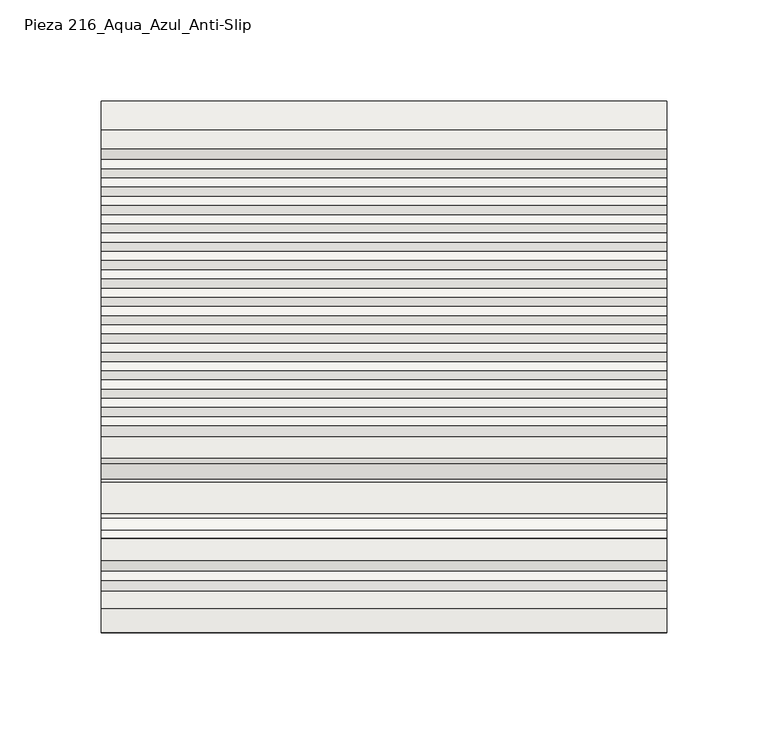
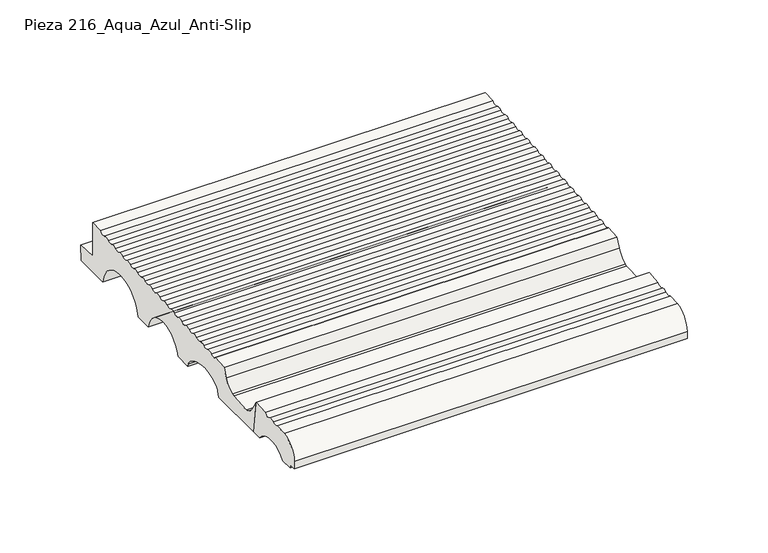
"""IFC4 building model written with IfcOpenShell, lengths in millimetres: slab geometry, ROSA GRES_216 : Pieza 216_Aqua_Azul_Anti-Slip."""

from ifc_helpers import new_model, si_unit, point, frame, frame_2d, origin, place, context, project, spatial, polyline, circle_curve, trimmed, segment, composite_curve, outline, extrude, source, transform, mapped, element, save


def pieza_216_aqua_azul_anti_slip_05ee5f36(model_context):
    return source(origin(), model_context, "Body", "SweptSolid", [
        extrude(outline(composite_curve([segment(polyline([(50.2779274, 190.3313491), (42.6585641, 190.3344144)]), True, "CONTINUOUS"), segment(trimmed(circle_curve(frame_2d((28.4466156, 179.1524611)), 18.0835716), [point((42.6585641, 190.3344144))], [point((14.2436688, 190.3458459))], True, "CARTESIAN"), True, "CONTINUOUS"), segment(polyline([(14.2436688, 190.3458459), (5.4229579, 190.3493946), (5.1617818, 192.8343188), (0.2589396, 192.8448483), (0.270618, 198.2826277)]), True, "CONTINUOUS"), segment(trimmed(circle_curve(frame_2d((13.9356113, 198.4086002)), 13.6655739), [point((0.270618, 198.2826277))], [point((12.4148911, 211.9892969))], False, "CARTESIAN"), True, "CONTINUOUS"), segment(polyline([(12.4148911, 211.9892969), (20.9679225, 212.5430894)]), True, "CONTINUOUS"), segment(trimmed(circle_curve(frame_2d((23.8495454, 215.5123064)), 4.1376321), [point((20.9679225, 212.5430894))], [point((26.349741, 212.2154865))], True, "CARTESIAN"), True, "CONTINUOUS"), segment(trimmed(circle_curve(frame_2d((28.8499366, 208.9186667)), 4.1376321), [point((26.349741, 212.2154865))], [point((30.8950387, 212.5155483))], False, "CARTESIAN"), True, "CONTINUOUS"), segment(trimmed(circle_curve(frame_2d((32.9401407, 216.1124298)), 4.1376321), [point((30.8950387, 212.5155483))], [point((36.1886491, 213.5497765))], True, "CARTESIAN"), True, "CONTINUOUS"), segment(polyline([(36.1886491, 213.5497765), (47.02226, 214.2649666), (50.2779274, 190.3313491)]), True, "CONTINUOUS")], self_intersect=False)), frame((0.0, 0.0, 0.0), z_axis=(1.0, 0.0, 0.0), x_axis=(0.0, 1.0, 0.0)), (0.0, 0.0, 1.0), 280.0),
        extrude(outline(composite_curve([segment(polyline([(263.2751802, 190.245659), (236.9233748, 190.2562605)]), True, "CONTINUOUS"), segment(trimmed(circle_curve(frame_2d((215.0085062, 186.5344061)), 22.2286676), [point((236.9233748, 190.2562605))], [point((193.0966393, 190.2738923))], True, "CARTESIAN"), True, "CONTINUOUS"), segment(polyline([(193.0966393, 190.2738923), (180.7270569, 190.2788686)]), True, "CONTINUOUS"), segment(trimmed(circle_curve(frame_2d((162.221775, 186.3703221)), 18.9135452), [point((180.7270569, 190.2788686))], [point((143.719644, 190.2937569))], True, "CARTESIAN"), True, "CONTINUOUS"), segment(polyline([(143.719644, 190.2937569), (131.5147991, 190.298667), (130.9555618, 192.6836396)]), True, "CONTINUOUS"), segment(trimmed(circle_curve(frame_2d((125.6336801, 191.4357448)), 5.4662296), [point((130.9555618, 192.6836396))], [point((129.2498705, 195.5348707))], True, "CARTESIAN"), True, "CONTINUOUS"), segment(trimmed(circle_curve(frame_2d((112.2317578, 176.2440208)), 25.7245612), [point((129.2498705, 195.5348707))], [point((96.2307788, 196.386556))], True, "CARTESIAN"), True, "CONTINUOUS"), segment(trimmed(circle_curve(frame_2d((99.6308378, 192.1064549)), 5.4662296), [point((96.2307788, 196.386556))], [point((94.4638044, 193.8901119))], True, "CARTESIAN"), True, "CONTINUOUS"), segment(polyline([(94.4638044, 193.8901119), (93.2293566, 190.3140695), (50.2802779, 190.3140695), (47.02226, 214.2649666), (51.3482048, 207.3914339)]), True, "CONTINUOUS"), segment(trimmed(circle_curve(frame_2d((63.7751184, 214.6556047)), 14.394317), [point((51.3482048, 207.3914339))], [point((57.0972438, 201.904042))], True, "CARTESIAN"), True, "CONTINUOUS"), segment(trimmed(circle_curve(frame_2d((59.2105081, 205.9393712)), 4.5551913), [point((57.0972438, 201.904042))], [point((59.5105698, 201.3940735))], True, "CARTESIAN"), True, "CONTINUOUS"), segment(polyline([(59.5105698, 201.3940735), (75.0526722, 202.4200987)]), True, "CONTINUOUS"), segment(trimmed(circle_curve(frame_2d((74.7526105, 206.9653964)), 4.5551913), [point((75.0526722, 202.4200987))], [point((76.5779698, 202.7919289))], True, "CARTESIAN"), True, "CONTINUOUS"), segment(trimmed(circle_curve(frame_2d((70.8098694, 215.980006)), 14.394317), [point((76.5779698, 202.7919289))], [point((84.083877, 210.4125036))], True, "CARTESIAN"), True, "CONTINUOUS"), segment(polyline([(84.083877, 210.4125036), (86.7854822, 216.8536554), (97.5473566, 217.5715259)]), True, "CONTINUOUS"), segment(trimmed(circle_curve(frame_2d((100.4299632, 220.5397878)), 4.1376321), [point((97.5473566, 217.5715259))], [point((102.9301588, 217.2429679))], True, "CARTESIAN"), True, "CONTINUOUS"), segment(trimmed(circle_curve(frame_2d((105.4303545, 213.9461481)), 4.1376321), [point((102.9301588, 217.2429679))], [point((107.4754565, 217.5430296))], False, "CARTESIAN"), True, "CONTINUOUS"), segment(trimmed(circle_curve(frame_2d((109.5205585, 221.1399112)), 4.1376321), [point((107.4754565, 217.5430296))], [point((112.0207542, 217.8430914))], True, "CARTESIAN"), True, "CONTINUOUS"), segment(trimmed(circle_curve(frame_2d((114.5209498, 214.5462715)), 4.1376321), [point((112.0207542, 217.8430914))], [point((116.5660518, 218.1431531))], False, "CARTESIAN"), True, "CONTINUOUS"), segment(trimmed(circle_curve(frame_2d((118.6111539, 221.7400347)), 4.1376321), [point((116.5660518, 218.1431531))], [point((121.1113495, 218.4432148))], True, "CARTESIAN"), True, "CONTINUOUS"), segment(trimmed(circle_curve(frame_2d((123.6115451, 215.1463949)), 4.1376321), [point((121.1113495, 218.4432148))], [point((125.6566472, 218.7432765))], False, "CARTESIAN"), True, "CONTINUOUS"), segment(trimmed(circle_curve(frame_2d((127.7017492, 222.3401581)), 4.1376321), [point((125.6566472, 218.7432765))], [point((130.2019448, 219.0433382))], True, "CARTESIAN"), True, "CONTINUOUS"), segment(trimmed(circle_curve(frame_2d((132.7021405, 215.7465184)), 4.1376321), [point((130.2019448, 219.0433382))], [point((134.7472425, 219.3433999))], False, "CARTESIAN"), True, "CONTINUOUS"), segment(trimmed(circle_curve(frame_2d((136.7923445, 222.9402815)), 4.1376321), [point((134.7472425, 219.3433999))], [point((139.2925402, 219.6434617))], True, "CARTESIAN"), True, "CONTINUOUS"), segment(trimmed(circle_curve(frame_2d((141.7927358, 216.3466418)), 4.1376321), [point((139.2925402, 219.6434617))], [point((143.8378378, 219.9435234))], False, "CARTESIAN"), True, "CONTINUOUS"), segment(trimmed(circle_curve(frame_2d((145.8829399, 223.540405)), 4.1376321), [point((143.8378378, 219.9435234))], [point((148.3831355, 220.2435851))], True, "CARTESIAN"), True, "CONTINUOUS"), segment(trimmed(circle_curve(frame_2d((150.8833311, 216.9467652)), 4.1376321), [point((148.3831355, 220.2435851))], [point((152.9284332, 220.5436468))], False, "CARTESIAN"), True, "CONTINUOUS"), segment(trimmed(circle_curve(frame_2d((154.9735352, 224.1405284)), 4.1376321), [point((152.9284332, 220.5436468))], [point((157.4737308, 220.8437085))], True, "CARTESIAN"), True, "CONTINUOUS"), segment(trimmed(circle_curve(frame_2d((159.9739265, 217.5468887)), 4.1376321), [point((157.4737308, 220.8437085))], [point((162.0190285, 221.1437703))], False, "CARTESIAN"), True, "CONTINUOUS"), segment(trimmed(circle_curve(frame_2d((164.0641305, 224.7406518)), 4.1376321), [point((162.0190285, 221.1437703))], [point((166.5643262, 221.443832))], True, "CARTESIAN"), True, "CONTINUOUS"), segment(trimmed(circle_curve(frame_2d((169.0645218, 218.1470121)), 4.1376321), [point((166.5643262, 221.443832))], [point((171.1096238, 221.7438937))], False, "CARTESIAN"), True, "CONTINUOUS"), segment(trimmed(circle_curve(frame_2d((173.1547259, 225.3407753)), 4.1376321), [point((171.1096238, 221.7438937))], [point((175.6549215, 222.0439554))], True, "CARTESIAN"), True, "CONTINUOUS"), segment(trimmed(circle_curve(frame_2d((178.1551171, 218.7471355)), 4.1376321), [point((175.6549215, 222.0439554))], [point((180.2002192, 222.3440171))], False, "CARTESIAN"), True, "CONTINUOUS"), segment(trimmed(circle_curve(frame_2d((182.2453212, 225.9408987)), 4.1376321), [point((180.2002192, 222.3440171))], [point((184.7455168, 222.6440788))], True, "CARTESIAN"), True, "CONTINUOUS"), segment(trimmed(circle_curve(frame_2d((187.2457125, 219.347259)), 4.1376321), [point((184.7455168, 222.6440788))], [point((189.2908145, 222.9441406))], False, "CARTESIAN"), True, "CONTINUOUS"), segment(trimmed(circle_curve(frame_2d((191.3359165, 226.5410222)), 4.1376321), [point((189.2908145, 222.9441406))], [point((193.8361122, 223.2442023))], True, "CARTESIAN"), True, "CONTINUOUS"), segment(trimmed(circle_curve(frame_2d((196.3363078, 219.9473824)), 4.1376321), [point((193.8361122, 223.2442023))], [point((198.3814098, 223.544264))], False, "CARTESIAN"), True, "CONTINUOUS"), segment(trimmed(circle_curve(frame_2d((200.4265119, 227.1411456)), 4.1376321), [point((198.3814098, 223.544264))], [point((202.9267075, 223.8443257))], True, "CARTESIAN"), True, "CONTINUOUS"), segment(trimmed(circle_curve(frame_2d((205.4269031, 220.5475058)), 4.1376321), [point((202.9267075, 223.8443257))], [point((207.4720052, 224.1443874))], False, "CARTESIAN"), True, "CONTINUOUS"), segment(trimmed(circle_curve(frame_2d((209.5171072, 227.741269)), 4.1376321), [point((207.4720052, 224.1443874))], [point((212.0173028, 224.4444492))], True, "CARTESIAN"), True, "CONTINUOUS"), segment(trimmed(circle_curve(frame_2d((214.5174985, 221.1476293)), 4.1376321), [point((212.0173028, 224.4444492))], [point((216.5626005, 224.7445109))], False, "CARTESIAN"), True, "CONTINUOUS"), segment(trimmed(circle_curve(frame_2d((218.6077025, 228.3413925)), 4.1376321), [point((216.5626005, 224.7445109))], [point((221.1078982, 225.0445726))], True, "CARTESIAN"), True, "CONTINUOUS"), segment(trimmed(circle_curve(frame_2d((223.6080938, 221.7477527)), 4.1376321), [point((221.1078982, 225.0445726))], [point((225.6531958, 225.3446343))], False, "CARTESIAN"), True, "CONTINUOUS"), segment(trimmed(circle_curve(frame_2d((227.6982979, 228.9415159)), 4.1376321), [point((225.6531958, 225.3446343))], [point((230.1984935, 225.644696))], True, "CARTESIAN"), True, "CONTINUOUS"), segment(trimmed(circle_curve(frame_2d((232.6986891, 222.3478762)), 4.1376321), [point((230.1984935, 225.644696))], [point((234.7437912, 225.9447577))], False, "CARTESIAN"), True, "CONTINUOUS"), segment(trimmed(circle_curve(frame_2d((236.7888932, 229.5416393)), 4.1376321), [point((234.7437912, 225.9447577))], [point((240.0374016, 226.9789859))], True, "CARTESIAN"), True, "CONTINUOUS"), segment(polyline([(240.0374016, 226.9789859), (249.2078603, 227.5843816), (249.1610944, 202.0976939), (263.622227, 201.6579314), (263.2751802, 190.245659)]), True, "CONTINUOUS")], self_intersect=False)), frame((0.0, 0.0, 0.0), z_axis=(1.0, 0.0, 0.0), x_axis=(0.0, 1.0, 0.0)), (0.0, 0.0, 1.0), 280.0),
    ])


if __name__ == "__main__":
    model = new_model("IFC4")
    model_context = context("Model", 3, world=origin())
    ifc_project = project(units=[si_unit("LENGTHUNIT", "METRE", prefix="MILLI")], contexts=[model_context])
    site = spatial("IfcSite", under=ifc_project)
    building = spatial("IfcBuilding", under=site)
    placement = place(None, origin())
    pieza_216_aqua_azul_anti_slip_shape = pieza_216_aqua_azul_anti_slip_05ee5f36(model_context)
    element("IfcSlab", 1, ObjectType="ROSA GRES_216 : Pieza 216_Aqua_Azul_Anti-Slip", at=placement, inside=building, context=model_context, shape_type="MappedRepresentation", body=[
        mapped(pieza_216_aqua_azul_anti_slip_shape, transform((0.0, 0.0, 0.0), x_axis=(1.0, 0.0, 0.0), y_axis=(0.0, 1.0, 0.0), z_axis=(0.0, 0.0, 1.0))),
    ])
    save(model, "model.ifc")
